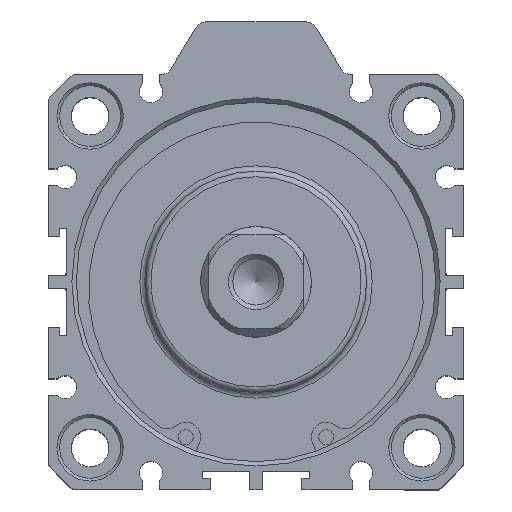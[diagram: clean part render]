
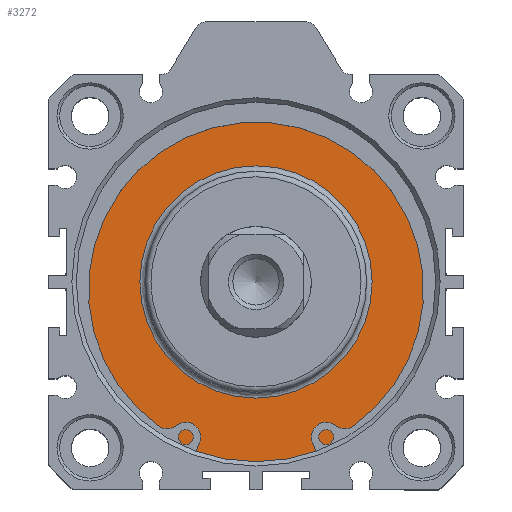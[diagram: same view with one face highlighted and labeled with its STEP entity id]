
A CAD part, top view. The second image highlights one B-rep face of the part: STEP entity #3272.
In plain terms, the highlighted planar face has unit normal (0, 0, 1).
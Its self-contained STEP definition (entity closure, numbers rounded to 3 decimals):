
#3221=CARTESIAN_POINT('',(0.359,19.684,67.3));
#3222=VERTEX_POINT('',#3221);
#3223=CARTESIAN_POINT('',(0.359,-1.316,67.3));
#3224=DIRECTION('',(0.0,0.0,1.0));
#3225=DIRECTION('',(0.0,-1.0,0.0));
#3226=AXIS2_PLACEMENT_3D('',#3223,#3224,#3225);
#3227=CIRCLE('',#3226,21.0);
#3228=EDGE_CURVE('',#3222,#3222,#3227,.T.);
#3253=CARTESIAN_POINT('',(0.359,24.934,67.3));
#3254=DIRECTION('',(0.0,0.0,1.0));
#3255=DIRECTION('',(1.0,0.0,0.0));
#3256=AXIS2_PLACEMENT_3D('',#3253,#3254,#3255);
#3257=PLANE('',#3256);
#3258=CARTESIAN_POINT('',(0.359,31.184,67.3));
#3259=VERTEX_POINT('',#3258);
#3260=CARTESIAN_POINT('',(0.359,-1.316,67.3));
#3261=DIRECTION('',(0.0,0.0,-1.0));
#3262=DIRECTION('',(0.0,1.0,0.0));
#3263=AXIS2_PLACEMENT_3D('',#3260,#3261,#3262);
#3264=CIRCLE('',#3263,32.5);
#3265=EDGE_CURVE('',#3259,#3259,#3264,.T.);
#3266=ORIENTED_EDGE('',*,*,#3265,.F.);
#3267=EDGE_LOOP('',(#3266));
#3268=FACE_OUTER_BOUND('',#3267,.T.);
#3269=ORIENTED_EDGE('',*,*,#3228,.F.);
#3270=EDGE_LOOP('',(#3269));
#3271=FACE_BOUND('',#3270,.T.);
#3272=ADVANCED_FACE('',(#3268,#3271),#3257,.T.);
